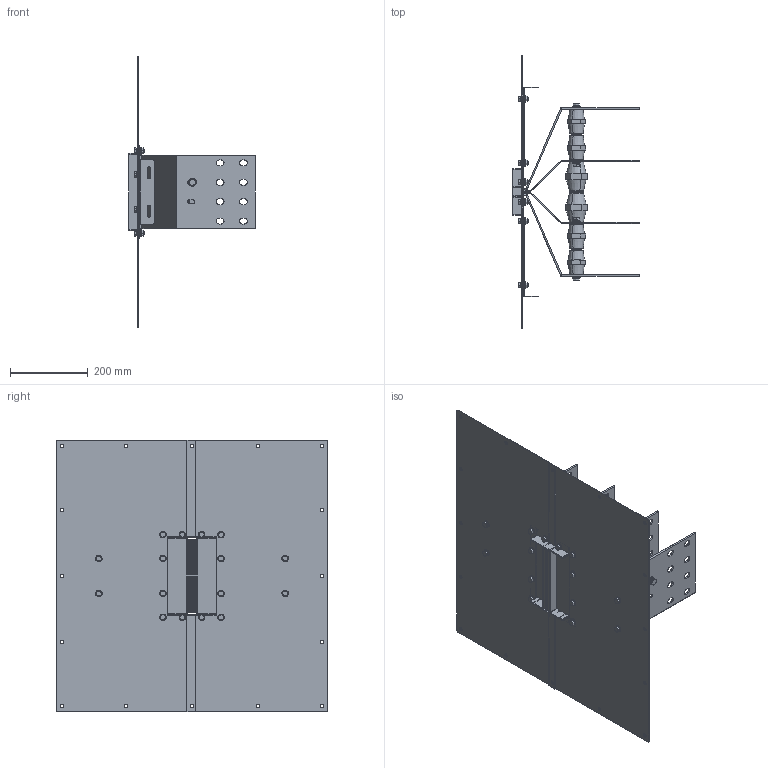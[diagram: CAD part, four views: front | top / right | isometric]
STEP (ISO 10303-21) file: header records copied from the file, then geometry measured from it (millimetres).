
FILE_DESCRIPTION(('CATIA V5 STEP','CAx-IF Rec.Pracs.--- Model Styling and Organization---1.5--- 2016-08-15','CAx-IF Rec.Pracs.---Supplemental Geometry---1.0---2011-11-01','CAx-IF Rec.Pracs.--- Composite Materials ---1.1---2010-07-15'),'2;1');
FILE_NAME('K:\COSCN 2011\32372311_RiduzioneSezioniBarre\03_Studio\__Modelli semplificati\XCP_UB semplificati per studi\XCP-S_UB_4C_Pe_CRT_Assieme\Al\XCP-S_UB_4C_Pe_S_Assieme - 1600A Al\XCP-S_UB_4C_Pe_S_Assieme - 1600A Al_CRT.stp','2025-05-12T12:31:25+00:00',('Utente Bticino'),('Bticino S.p.A.'),'CATIA Version 5-6 Release 2020 SP5','CATIA V5 STEP AP214 v2','none');
FILE_SCHEMA(('AUTOMOTIVE_DESIGN { 1 0 10303 214 1 1 1 1 }'));
Length unit declared in the file: millimetre
Products named in the file (20): XCP-S_UB_4C_Pe_S_Assieme - 1600A Al_CRT; XCP-S_UB_4C_Pe_S_PaccoBarre_1600A Al_CRT; XCP-S_UB_4C_Pe_S_Lamiere_1600A Al_CRT; 130006; 130184; 00750033 - RONDELLA PIANA 4.8 D.12 UNI 6592 ZB; Ass_M10x25.1; 00740025 M10x25 UNI5739; Rondella spac M10 UNI 1751; 00750005; 130006_1; 130006_2; 130006_3; 130184_1; 00750033 - RONDELLA PIANA 4.8 D.12 UNI 6592 ZB_1; 00750033 - RONDELLA PIANA 4.8 D.12 UNI 6592 ZB_2; Viteria UB H130; Ass Vite+dado M8; Steel hex flanged SCREW M12x16; Steel hex flanged NUT M8
Assembly tree (39 placements, depth 4):
  XCP-S_UB_4C_Pe_S_Assieme - 1600A Al_CRT
    XCP-S_UB_4C_Pe_S_PaccoBarre_1600A Al_CRT
    XCP-S_UB_4C_Pe_S_Lamiere_1600A Al_CRT
    130006
    130184
    00750033 - RONDELLA PIANA 4.8 D.12 UNI 6592 ZB
    Ass_M10x25.1  x6
      00740025 M10x25 UNI5739
      Rondella spac M10 UNI 1751
      00750005
    130006_1
    130006_2
    130006_3
    130184_1
    00750033 - RONDELLA PIANA 4.8 D.12 UNI 6592 ZB_1
    00750033 - RONDELLA PIANA 4.8 D.12 UNI 6592 ZB_2
    Viteria UB H130
      Ass Vite+dado M8  x16
        Steel hex flanged SCREW M12x16
        Steel hex flanged NUT M8
Bounding box: 325 x 700 x 700 mm (x, y, z)
Volume: 3072880.9 mm3; surface area: 2066117.7 mm2
Topology: 73 solids, 73 shells, 1716 faces, 4148 edges, 2616 vertices
Faces by surface type: plane 760, cylinder 516, cone 200, bspline 176, torus 64
Entity records: 25643 total; most frequent: CARTESIAN_POINT 5526, ORIENTED_EDGE 4288, DIRECTION 3378, EDGE_CURVE 2144, AXIS2_PLACEMENT_3D 1462, VERTEX_POINT 1376, VECTOR 1252, LINE 1252
